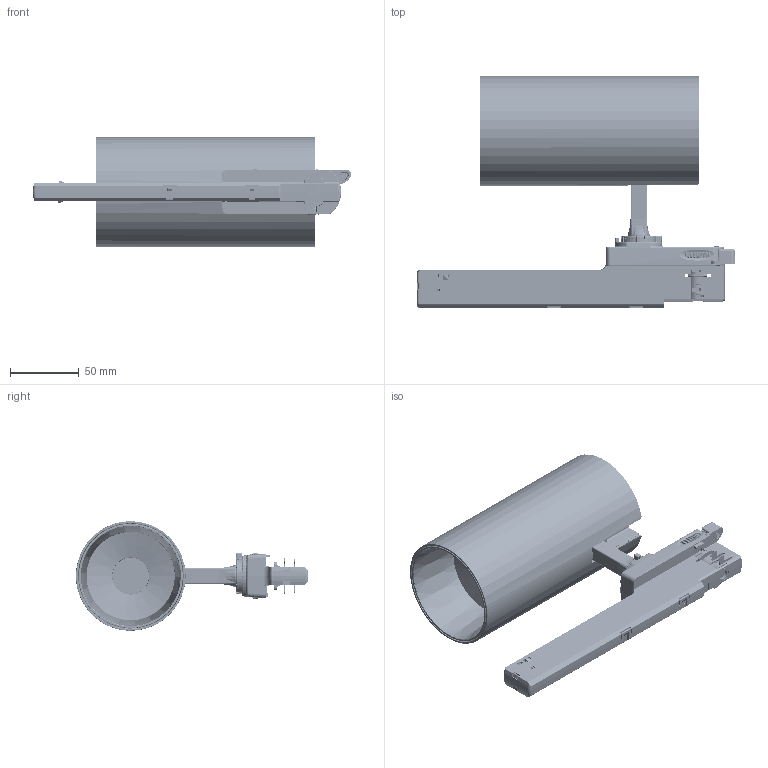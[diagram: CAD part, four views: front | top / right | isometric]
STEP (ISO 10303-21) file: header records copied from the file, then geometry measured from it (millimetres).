
FILE_DESCRIPTION((''),'2;1');
FILE_NAME('D80-35W-25-ZGJ-201_ASM','2024-02-20T',('klm2020'),(''),'PRO/ENGINEER BY PARAMETRIC TECHNOLOGY CORPORATION, 2010280','PRO/ENGINEER BY PARAMETRIC TECHNOLOGY CORPORATION, 2010280','');
FILE_SCHEMA(('CONFIG_CONTROL_DESIGN','SHAPE_APPEARANCE_LAYERS_GROUPS'));
Length unit declared in the file: millimetre
Products named in the file (40): ZHI-J-101; WXJ-KM-101; KA-HUAN-101; NEW-GDH-101; DIAN-P-101; D80-WG-101; ZJ-AI-NEW-101; TJ-NEW-101-101; TSW-LED-4X-101; DG-KCX-101; D80-DB-CG-KCX-101; COVER_INF_TUTTO___184_65; COVER_SUP_TUTTO___93_566; IMPORTATO2___23_51; GA69P1_TUTTO___ASM_1_ASM_1_ASM; GA69P4_TUTTO___1_2; GA69P5_TUTTO___1_5; GA69P2_TUTTO___1_4; GA69P3_TUTTO___1_29; GA69P8_TUTTO___1_13; GA69KOST_TUTTO___ASM_1_ASM_64_ASM; CAP_TUTTO___73_349; TP-1; TP-2; TP-3; X-NIU-101; GAI-X-101; DY-4X-101; DALI_1_38_31; DALI_2_53_18; MANIFOLD_SOLID_BREP_207942_5; MANIFOLD_SOLID_BREP_208661_1; GA600P7-1-SOLID1__12_3_ASM_1_ASM; GA600P22-1-SOLID1__25_60_21; GA600P3-1-SOLID1__47_29_67; CONT_DALI_ASM_18_ASM_1_ASM_1_ASM; TP-9-101; DALI_ASM_82_ASM_92_ASM; GDT-4X-DALI-201_ASM; D80-35W-25-ZGJ-201_ASM
Assembly tree (43 placements, depth 6):
  D80-35W-25-ZGJ-201_ASM
    ZHI-J-101
    WXJ-KM-101
    KA-HUAN-101
    NEW-GDH-101
    DIAN-P-101  x2
    D80-WG-101
    ZJ-AI-NEW-101
    TJ-NEW-101-101
    TSW-LED-4X-101
    DG-KCX-101
    D80-DB-CG-KCX-101
    GDT-4X-DALI-201_ASM
      COVER_INF_TUTTO___184_65
      COVER_SUP_TUTTO___93_566
      GA69KOST_TUTTO___ASM_1_ASM_64_ASM
        GA69P1_TUTTO___ASM_1_ASM_1_ASM
          IMPORTATO2___23_51
        GA69P4_TUTTO___1_2  x2
        GA69P5_TUTTO___1_5  x2
        GA69P2_TUTTO___1_4
        GA69P3_TUTTO___1_29
        GA69P8_TUTTO___1_13
      CAP_TUTTO___73_349
      TP-1
      TP-2
      TP-3
      X-NIU-101
      GAI-X-101
      DY-4X-101
      DALI_1_38_31
      DALI_2_53_18
      DALI_ASM_82_ASM_92_ASM
        CONT_DALI_ASM_18_ASM_1_ASM_1_ASM
          GA600P7-1-SOLID1__12_3_ASM_1_ASM
            MANIFOLD_SOLID_BREP_207942_5
            MANIFOLD_SOLID_BREP_208661_1
          GA600P22-1-SOLID1__25_60_21
          GA600P3-1-SOLID1__47_29_67
        TP-9-101
      KA-HUAN-101
Bounding box: 232.24 x 169.41 x 79.97 mm (x, y, z)
Volume: 336073.4 mm3; surface area: 322568.7 mm2
Topology: 38 solids, 38 shells, 8144 faces, 22874 edges, 14844 vertices
Faces by surface type: plane 4313, cylinder 1997, bspline 787, cone 544, torus 450, sphere 51, revolution 1, extrusion 1
Entity records: 343844 total; most frequent: CARTESIAN_POINT 122057, ORIENTED_EDGE 40868, DIRECTION 31360, EDGE_CURVE 20434, PRESENTATION_STYLE_ASSIGNMENT 13321, VERTEX_POINT 13257, STYLED_ITEM 13053, CURVE_STYLE 13009
